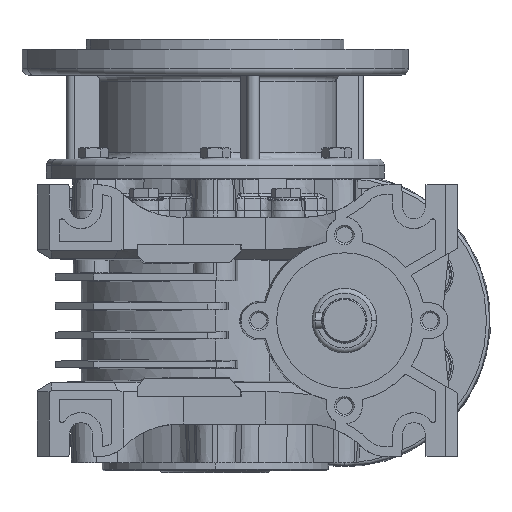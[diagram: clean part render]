
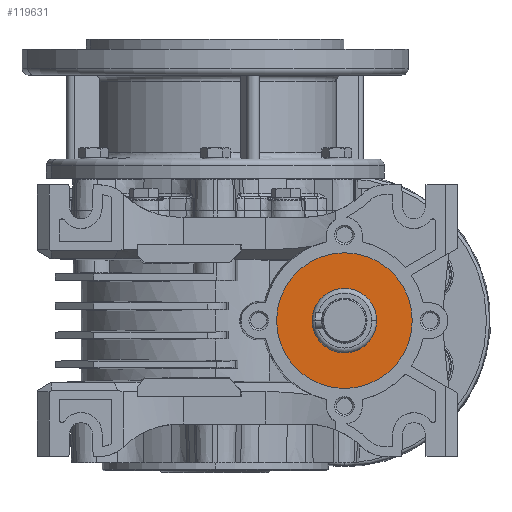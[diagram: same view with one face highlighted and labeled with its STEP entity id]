
A CAD part, left-side view. The second image highlights one B-rep face of the part: STEP entity #119631.
In plain terms, the highlighted planar face has unit normal (-1, 0, 0).
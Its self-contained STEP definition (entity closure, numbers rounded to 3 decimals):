
#2386 = CARTESIAN_POINT ( 'NONE',  ( -54.524, -40., 0. ) ) ;
#2785 = DIRECTION ( 'NONE',  ( 0., 0., 1. ) ) ;
#4439 = DIRECTION ( 'NONE',  ( 0., 0., 1. ) ) ;
#8005 = DIRECTION ( 'NONE',  ( 0., 0., 1. ) ) ;
#8670 = DIRECTION ( 'NONE',  ( 0., 0., 1. ) ) ;
#8860 = CARTESIAN_POINT ( 'NONE',  ( -54.524, -40., 0. ) ) ;
#10869 = FACE_OUTER_BOUND ( 'NONE', #114446, .T. ) ;
#22164 = EDGE_LOOP ( 'NONE', ( #71493, #94980 ) ) ;
#29076 = AXIS2_PLACEMENT_3D ( 'NONE', #2386, #131993, #4439 ) ;
#30179 = DIRECTION ( 'NONE',  ( 1., 0., 0. ) ) ;
#31931 = DIRECTION ( 'NONE',  ( 1., 0., 0. ) ) ;
#37984 = CIRCLE ( 'NONE', #29076, 21. ) ;
#38261 = CARTESIAN_POINT ( 'NONE',  ( -54.524, -50., 0. ) ) ;
#40051 = FACE_BOUND ( 'NONE', #22164, .T. ) ;
#49989 = AXIS2_PLACEMENT_3D ( 'NONE', #8860, #53860, #63573 ) ;
#50018 = VERTEX_POINT ( 'NONE', #38261 ) ;
#53860 = DIRECTION ( 'NONE',  ( -1., 0., 0. ) ) ;
#57016 = CARTESIAN_POINT ( 'NONE',  ( -54.524, -40., -21. ) ) ;
#62373 = ORIENTED_EDGE ( 'NONE', *, *, #111242, .F. ) ;
#63225 = AXIS2_PLACEMENT_3D ( 'NONE', #75593, #31931, #2785 ) ;
#63573 = DIRECTION ( 'NONE',  ( 0., 0., 1. ) ) ;
#70753 = CIRCLE ( 'NONE', #92959, 10. ) ;
#71493 = ORIENTED_EDGE ( 'NONE', *, *, #125890, .T. ) ;
#71744 = CARTESIAN_POINT ( 'NONE',  ( -54.524, -40., 0. ) ) ;
#72115 = VERTEX_POINT ( 'NONE', #75212 ) ;
#73936 = CIRCLE ( 'NONE', #113851, 10. ) ;
#75212 = CARTESIAN_POINT ( 'NONE',  ( -54.524, -40., 21. ) ) ;
#75593 = CARTESIAN_POINT ( 'NONE',  ( -54.524, -40., 0. ) ) ;
#82055 = EDGE_CURVE ( 'NONE', #88447, #72115, #37984, .T. ) ;
#88447 = VERTEX_POINT ( 'NONE', #57016 ) ;
#92959 = AXIS2_PLACEMENT_3D ( 'NONE', #102970, #30179, #8005 ) ;
#94231 = CARTESIAN_POINT ( 'NONE',  ( -54.524, -30., 0. ) ) ;
#94980 = ORIENTED_EDGE ( 'NONE', *, *, #115847, .T. ) ;
#102970 = CARTESIAN_POINT ( 'NONE',  ( -54.524, -40., 0. ) ) ;
#111242 = EDGE_CURVE ( 'NONE', #72115, #88447, #131721, .T. ) ;
#113851 = AXIS2_PLACEMENT_3D ( 'NONE', #71744, #114046, #8670 ) ;
#114046 = DIRECTION ( 'NONE',  ( 1., 0., 0. ) ) ;
#114446 = EDGE_LOOP ( 'NONE', ( #62373, #121683 ) ) ;
#115847 = EDGE_CURVE ( 'NONE', #50018, #128443, #73936, .T. ) ;
#119631 = ADVANCED_FACE ( 'NONE', ( #40051, #10869 ), #126690, .T. ) ;
#121683 = ORIENTED_EDGE ( 'NONE', *, *, #82055, .F. ) ;
#125890 = EDGE_CURVE ( 'NONE', #128443, #50018, #70753, .T. ) ;
#126690 = PLANE ( 'NONE',  #49989 ) ;
#128443 = VERTEX_POINT ( 'NONE', #94231 ) ;
#131721 = CIRCLE ( 'NONE', #63225, 21. ) ;
#131993 = DIRECTION ( 'NONE',  ( 1., 0., 0. ) ) ;
